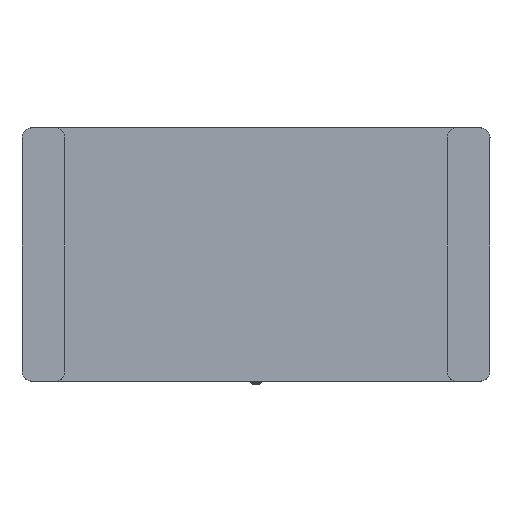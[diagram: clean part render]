
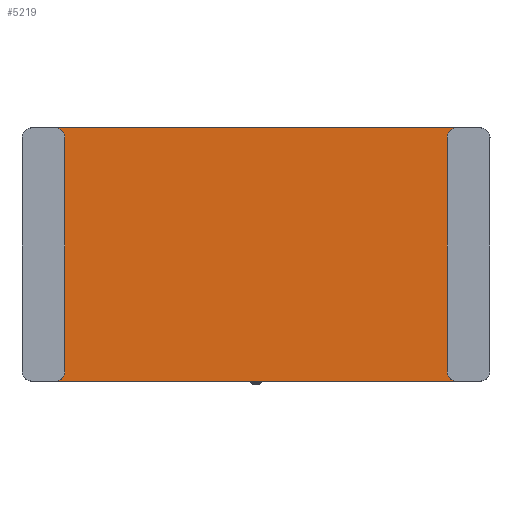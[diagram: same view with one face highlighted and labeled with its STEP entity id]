
A CAD part, front view. The second image highlights one B-rep face of the part: STEP entity #5219.
In plain terms, the highlighted planar face has unit normal (0, -1, 0) as drawn and (0, 0, 1) by its records, which use the part's own axes.
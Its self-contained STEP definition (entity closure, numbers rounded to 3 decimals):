
#306=PLANE('',#5746);
#527=FACE_OUTER_BOUND('',#825,.T.);
#825=EDGE_LOOP('',(#4008,#4009,#4010,#4011,#4012,#4013,#4014,#4015));
#1249=LINE('',#8067,#1787);
#1273=LINE('',#8138,#1811);
#1274=LINE('',#8141,#1812);
#1275=LINE('',#8145,#1813);
#1787=VECTOR('',#6496,1000.);
#1811=VECTOR('',#6570,1000.);
#1812=VECTOR('',#6573,1000.);
#1813=VECTOR('',#6576,1000.);
#2230=CIRCLE('',#5747,25.);
#2231=CIRCLE('',#5748,25.);
#2232=CIRCLE('',#5749,25.);
#2233=CIRCLE('',#5750,25.);
#2484=VERTEX_POINT('',#8065);
#2485=VERTEX_POINT('',#8066);
#2504=VERTEX_POINT('',#8129);
#2506=VERTEX_POINT('',#8135);
#2507=VERTEX_POINT('',#8137);
#2508=VERTEX_POINT('',#8139);
#2509=VERTEX_POINT('',#8142);
#2510=VERTEX_POINT('',#8144);
#3031=EDGE_CURVE('',#2484,#2485,#1249,.T.);
#3066=EDGE_CURVE('',#2484,#2506,#2230,.T.);
#3067=EDGE_CURVE('',#2506,#2507,#1273,.T.);
#3068=EDGE_CURVE('',#2507,#2508,#2231,.T.);
#3069=EDGE_CURVE('',#2508,#2504,#1274,.T.);
#3070=EDGE_CURVE('',#2504,#2509,#2232,.T.);
#3071=EDGE_CURVE('',#2509,#2510,#1275,.T.);
#3072=EDGE_CURVE('',#2510,#2485,#2233,.T.);
#4008=ORIENTED_EDGE('',*,*,#3066,.T.);
#4009=ORIENTED_EDGE('',*,*,#3067,.T.);
#4010=ORIENTED_EDGE('',*,*,#3068,.T.);
#4011=ORIENTED_EDGE('',*,*,#3069,.T.);
#4012=ORIENTED_EDGE('',*,*,#3070,.T.);
#4013=ORIENTED_EDGE('',*,*,#3071,.T.);
#4014=ORIENTED_EDGE('',*,*,#3072,.T.);
#4015=ORIENTED_EDGE('',*,*,#3031,.F.);
#5219=ADVANCED_FACE('',(#527),#306,.T.);
#5746=AXIS2_PLACEMENT_3D('',#8134,#6566,#6567);
#5747=AXIS2_PLACEMENT_3D('',#8136,#6568,#6569);
#5748=AXIS2_PLACEMENT_3D('',#8140,#6571,#6572);
#5749=AXIS2_PLACEMENT_3D('',#8143,#6574,#6575);
#5750=AXIS2_PLACEMENT_3D('',#8146,#6577,#6578);
#6496=DIRECTION('',(-1.,0.,0.));
#6566=DIRECTION('center_axis',(0.,0.,1.));
#6567=DIRECTION('ref_axis',(1.,0.,0.));
#6568=DIRECTION('center_axis',(0.,0.,-1.));
#6569=DIRECTION('ref_axis',(1.,0.,0.));
#6570=DIRECTION('',(0.,1.,0.));
#6571=DIRECTION('center_axis',(0.,0.,-1.));
#6572=DIRECTION('ref_axis',(1.,0.,0.));
#6573=DIRECTION('',(-1.,0.,0.));
#6574=DIRECTION('center_axis',(0.,0.,-1.));
#6575=DIRECTION('ref_axis',(1.,0.,0.));
#6576=DIRECTION('',(0.,-1.,0.));
#6577=DIRECTION('center_axis',(0.,0.,-1.));
#6578=DIRECTION('ref_axis',(1.,0.,0.));
#8065=CARTESIAN_POINT('',(1031.179,-659.428,5.));
#8066=CARTESIAN_POINT('',(11.129,-659.428,5.));
#8067=CARTESIAN_POINT('',(821.154,-659.428,5.));
#8129=CARTESIAN_POINT('',(11.129,-10.428,5.));
#8134=CARTESIAN_POINT('Origin',(521.154,-334.928,5.));
#8135=CARTESIAN_POINT('',(1011.154,-634.928,5.));
#8136=CARTESIAN_POINT('Origin',(1036.154,-634.928,5.));
#8137=CARTESIAN_POINT('',(1011.154,-34.928,5.));
#8138=CARTESIAN_POINT('',(1011.154,-334.928,5.));
#8139=CARTESIAN_POINT('',(1031.179,-10.428,5.));
#8140=CARTESIAN_POINT('Origin',(1036.154,-34.928,5.));
#8141=CARTESIAN_POINT('',(521.154,-10.428,5.));
#8142=CARTESIAN_POINT('',(31.154,-34.928,5.));
#8143=CARTESIAN_POINT('Origin',(6.154,-34.928,5.));
#8144=CARTESIAN_POINT('',(31.154,-634.928,5.));
#8145=CARTESIAN_POINT('',(31.154,-334.928,5.));
#8146=CARTESIAN_POINT('Origin',(6.154,-634.928,5.));
